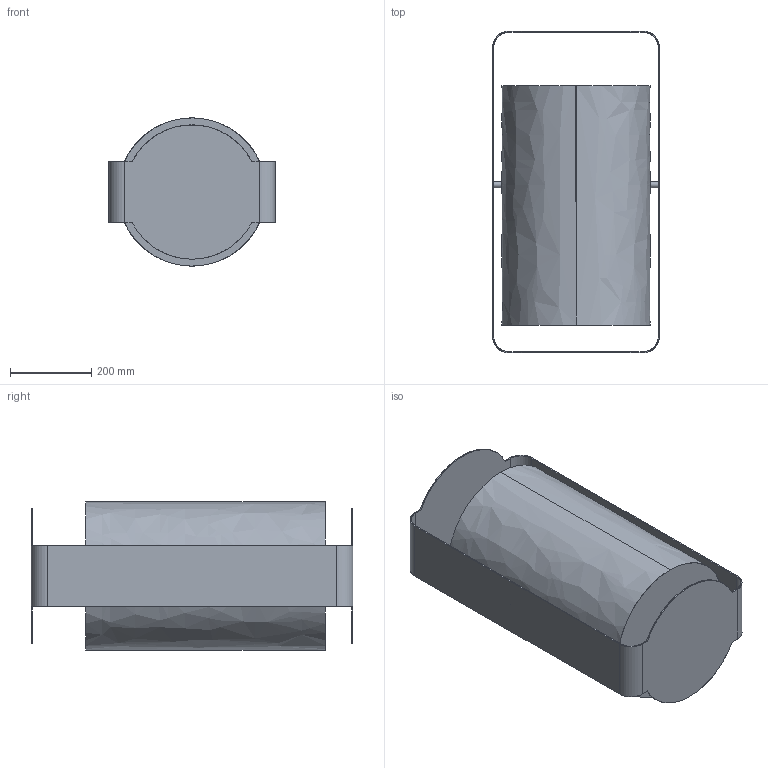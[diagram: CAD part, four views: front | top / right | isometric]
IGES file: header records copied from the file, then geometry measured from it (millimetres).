
Start section: SolidWorks IGES file using analytic representation for surfaces
Global section: file name: F:\F\2. ÀÐÕÈÂ ÄÅÊÎÐÀÒÈÂÍÛÕ ÎÏÎÐ\ÊÀÒÀËÎÃ ÀÊÑÈÔÎÐÌÀ\+ÏÃÑ\ÓÐÍÀ\Ova_cona\Ýñêèç äëÿ ñàéòà\Óðíà ova-tc-1-ïî.IGS; native system: SolidWorks 2020; preprocessor: SolidWorks 2020; author: Åêàòåðèíà; date: 230512.153330; units: millimetre
Bounding box: 410 x 790 x 364 mm (x, y, z)
Surface area: 2367742.1 mm2 (no closed solid volume)
Topology: 0 solids, 0 shells, 38 faces, 852 edges, 852 vertices
Faces by surface type: revolution 24, bspline 14
